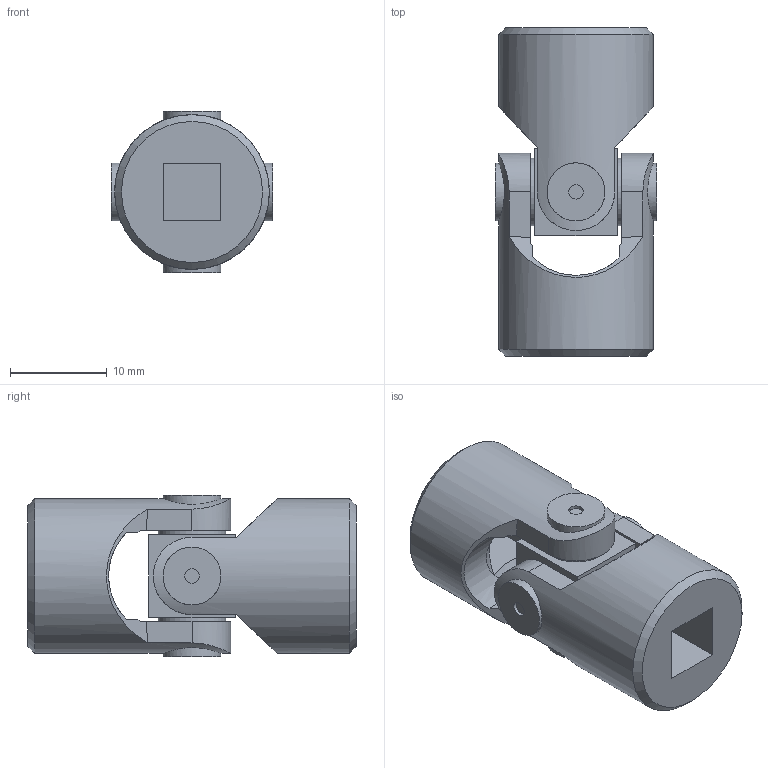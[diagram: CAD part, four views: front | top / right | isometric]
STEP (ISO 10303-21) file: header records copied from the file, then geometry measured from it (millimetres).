
FILE_DESCRIPTION(/* description */ ('EXTENSIBLE TRANSIMISSIONS Series G DIN 808 -2-'),/* implementation_level */ '2;1');
FILE_NAME(/* name */ '\\SRV2016\societa\Stefano\Disegni 3D\Dis. Clienti\0000Catalogo 3D\01Singoli G-GB\SG0S062Q.stp',/* time_stamp */ '2021-11-08T13:03:38+01:00',/* author */ ('acquisti'),/* organization */ ('MARIOFERRI'),/* preprocessor_version */ 'ST-DEVELOPER v15.6',/* originating_system */ 'Autodesk Inventor 2015',/* authorisation */ '');
FILE_SCHEMA (('AUTOMOTIVE_DESIGN { 1 0 10303 214 3 1 1 }'));
Length unit declared in the file: millimetre
Products named in the file (3): 01-02G SFE; 01G MOQ; Assieme1
Assembly tree (3 placements, depth 2):
  Assieme1
    01-02G SFE
    01G MOQ  x2
Bounding box: 16.7 x 34 x 16.7 mm (x, y, z)
Volume: 4790.8 mm3; surface area: 3399.3 mm2
Topology: 3 solids, 3 shells, 78 faces, 194 edges, 132 vertices
Faces by surface type: plane 44, cylinder 20, cone 12, torus 2
Full cylindrical faces by diameter (mm): 1.5 x4, 6 x4, 7 x4, 8.5 x2, 16 x2
Entity records: 1461 total; most frequent: CARTESIAN_POINT 449, DIRECTION 194, ORIENTED_EDGE 180, EDGE_CURVE 90, AXIS2_PLACEMENT_3D 81, EDGE_LOOP 68, VERTEX_POINT 68, FACE_OUTER_BOUND 46
